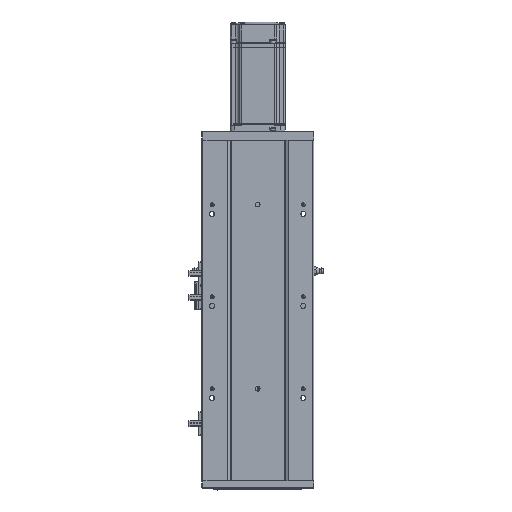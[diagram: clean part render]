
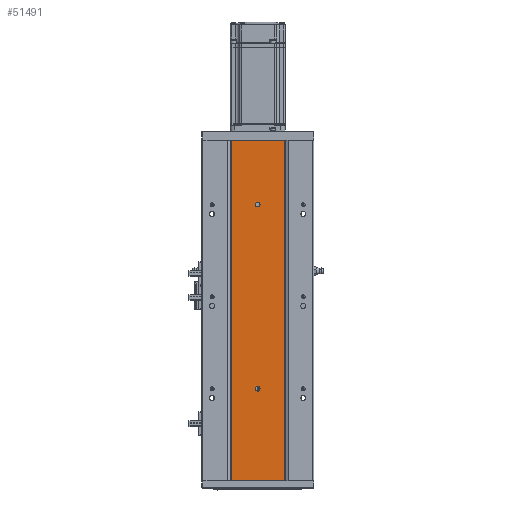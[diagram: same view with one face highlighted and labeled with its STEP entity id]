
A CAD part, front view. The second image highlights one B-rep face of the part: STEP entity #51491.
In plain terms, the highlighted planar face has unit normal (0, -1, 0).
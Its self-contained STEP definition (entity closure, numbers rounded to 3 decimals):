
#536 = CARTESIAN_POINT ( 'NONE',  ( 163.998, 50.307, 370. ) ) ;
#1272 = DIRECTION ( 'NONE',  ( 0., 1., 0. ) ) ;
#3962 = ORIENTED_EDGE ( 'NONE', *, *, #46928, .F. ) ;
#5196 = CIRCLE ( 'NONE', #33734, 2.5 ) ;
#6472 = DIRECTION ( 'NONE',  ( 0., 0., -1. ) ) ;
#6873 = VERTEX_POINT ( 'NONE', #42029 ) ;
#6874 = FACE_OUTER_BOUND ( 'NONE', #60773, .T. ) ;
#6964 = ORIENTED_EDGE ( 'NONE', *, *, #7652, .F. ) ;
#7011 = DIRECTION ( 'NONE',  ( 0., 0., -1. ) ) ;
#7652 = EDGE_CURVE ( 'NONE', #6873, #65142, #5196, .T. ) ;
#8845 = ORIENTED_EDGE ( 'NONE', *, *, #36084, .F. ) ;
#9456 = DIRECTION ( 'NONE',  ( 0., -1., 0. ) ) ;
#9922 = VERTEX_POINT ( 'NONE', #62316 ) ;
#9925 = AXIS2_PLACEMENT_3D ( 'NONE', #44940, #9456, #64444 ) ;
#10757 = DIRECTION ( 'NONE',  ( 0., 0., -1. ) ) ;
#11508 = FACE_BOUND ( 'NONE', #27491, .T. ) ;
#12877 = DIRECTION ( 'NONE',  ( 1., 0., 0. ) ) ;
#12967 = VECTOR ( 'NONE', #12877, 1000. ) ;
#13777 = ORIENTED_EDGE ( 'NONE', *, *, #21034, .T. ) ;
#15770 = CARTESIAN_POINT ( 'NONE',  ( 134.998, 50.307, 102.5 ) ) ;
#16128 = FACE_BOUND ( 'NONE', #57408, .T. ) ;
#18620 = ORIENTED_EDGE ( 'NONE', *, *, #24666, .F. ) ;
#19276 = CARTESIAN_POINT ( 'NONE',  ( 105.998, 50.307, 370. ) ) ;
#21034 = EDGE_CURVE ( 'NONE', #9922, #40793, #46840, .T. ) ;
#22704 = VERTEX_POINT ( 'NONE', #19276 ) ;
#23364 = CARTESIAN_POINT ( 'NONE',  ( 134.998, 50.307, 297.5 ) ) ;
#24666 = EDGE_CURVE ( 'NONE', #65142, #6873, #49849, .T. ) ;
#25147 = ORIENTED_EDGE ( 'NONE', *, *, #66843, .T. ) ;
#27491 = EDGE_LOOP ( 'NONE', ( #18620, #6964 ) ) ;
#30886 = DIRECTION ( 'NONE',  ( 0., 0., -1. ) ) ;
#31110 = AXIS2_PLACEMENT_3D ( 'NONE', #35258, #1272, #53890 ) ;
#33030 = VECTOR ( 'NONE', #30886, 1000. ) ;
#33734 = AXIS2_PLACEMENT_3D ( 'NONE', #62685, #62434, #45497 ) ;
#35258 = CARTESIAN_POINT ( 'NONE',  ( 0., 50.307, 370. ) ) ;
#36084 = EDGE_CURVE ( 'NONE', #70789, #40793, #73904, .T. ) ;
#38893 = ORIENTED_EDGE ( 'NONE', *, *, #65857, .F. ) ;
#40506 = ORIENTED_EDGE ( 'NONE', *, *, #76084, .F. ) ;
#40793 = VERTEX_POINT ( 'NONE', #64688 ) ;
#41664 = LINE ( 'NONE', #42385, #12967 ) ;
#42029 = CARTESIAN_POINT ( 'NONE',  ( 134.998, 50.307, 302.5 ) ) ;
#42385 = CARTESIAN_POINT ( 'NONE',  ( 0., 50.307, 370. ) ) ;
#44940 = CARTESIAN_POINT ( 'NONE',  ( 134.998, 50.307, 300. ) ) ;
#45497 = DIRECTION ( 'NONE',  ( 0., 0., -1. ) ) ;
#46840 = LINE ( 'NONE', #50279, #60782 ) ;
#46928 = EDGE_CURVE ( 'NONE', #67905, #63445, #71416, .T. ) ;
#47970 = VECTOR ( 'NONE', #10757, 1000. ) ;
#48701 = AXIS2_PLACEMENT_3D ( 'NONE', #53151, #53906, #6472 ) ;
#48932 = LINE ( 'NONE', #75871, #47970 ) ;
#49849 = CIRCLE ( 'NONE', #9925, 2.5 ) ;
#50279 = CARTESIAN_POINT ( 'NONE',  ( 0., 50.307, 0. ) ) ;
#51491 = ADVANCED_FACE ( 'NONE', ( #11508, #16128, #6874 ), #70826, .F. ) ;
#53151 = CARTESIAN_POINT ( 'NONE',  ( 134.998, 50.307, 100. ) ) ;
#53890 = DIRECTION ( 'NONE',  ( -1., 0., 0. ) ) ;
#53906 = DIRECTION ( 'NONE',  ( 0., -1., 0. ) ) ;
#55203 = CARTESIAN_POINT ( 'NONE',  ( 134.998, 50.307, 100. ) ) ;
#57408 = EDGE_LOOP ( 'NONE', ( #40506, #3962 ) ) ;
#60220 = CARTESIAN_POINT ( 'NONE',  ( 163.998, 50.307, 370. ) ) ;
#60773 = EDGE_LOOP ( 'NONE', ( #13777, #8845, #38893, #25147 ) ) ;
#60782 = VECTOR ( 'NONE', #67772, 1000. ) ;
#60970 = DIRECTION ( 'NONE',  ( 0., -1., 0. ) ) ;
#62316 = CARTESIAN_POINT ( 'NONE',  ( 105.998, 50.307, 0. ) ) ;
#62434 = DIRECTION ( 'NONE',  ( 0., -1., 0. ) ) ;
#62685 = CARTESIAN_POINT ( 'NONE',  ( 134.998, 50.307, 300. ) ) ;
#63445 = VERTEX_POINT ( 'NONE', #76585 ) ;
#64444 = DIRECTION ( 'NONE',  ( 0., 0., -1. ) ) ;
#64688 = CARTESIAN_POINT ( 'NONE',  ( 163.998, 50.307, 0. ) ) ;
#65142 = VERTEX_POINT ( 'NONE', #23364 ) ;
#65260 = AXIS2_PLACEMENT_3D ( 'NONE', #55203, #60970, #7011 ) ;
#65857 = EDGE_CURVE ( 'NONE', #22704, #70789, #41664, .T. ) ;
#66843 = EDGE_CURVE ( 'NONE', #22704, #9922, #48932, .T. ) ;
#67772 = DIRECTION ( 'NONE',  ( 1., 0., 0. ) ) ;
#67905 = VERTEX_POINT ( 'NONE', #15770 ) ;
#70789 = VERTEX_POINT ( 'NONE', #536 ) ;
#70826 = PLANE ( 'NONE',  #31110 ) ;
#71416 = CIRCLE ( 'NONE', #65260, 2.5 ) ;
#73904 = LINE ( 'NONE', #60220, #33030 ) ;
#75843 = CIRCLE ( 'NONE', #48701, 2.5 ) ;
#75871 = CARTESIAN_POINT ( 'NONE',  ( 105.998, 50.307, 370. ) ) ;
#76084 = EDGE_CURVE ( 'NONE', #63445, #67905, #75843, .T. ) ;
#76585 = CARTESIAN_POINT ( 'NONE',  ( 134.998, 50.307, 97.5 ) ) ;
